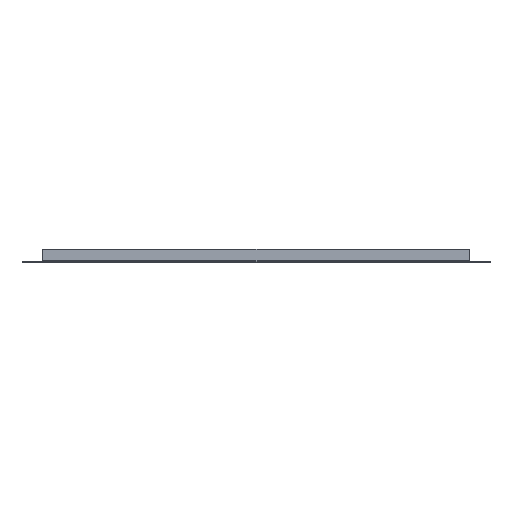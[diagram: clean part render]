
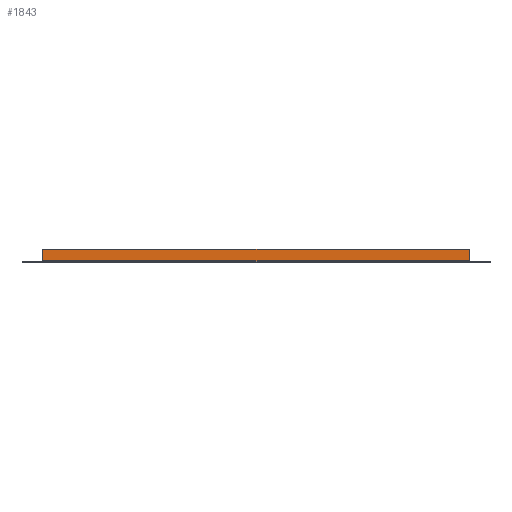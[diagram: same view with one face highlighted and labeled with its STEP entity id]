
A CAD part, left-side view. The second image highlights one B-rep face of the part: STEP entity #1843.
In plain terms, the highlighted planar face has unit normal (-1, 0, 0).
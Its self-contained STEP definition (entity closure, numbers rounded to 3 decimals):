
#1688 = VERTEX_POINT('',#1689);
#1689 = CARTESIAN_POINT('',(-925.,310.,3.1));
#1728 = VERTEX_POINT('',#1729);
#1729 = CARTESIAN_POINT('',(-925.,-310.,3.1));
#1753 = EDGE_CURVE('',#1728,#1688,#1754,.T.);
#1754 = LINE('',#1755,#1756);
#1755 = CARTESIAN_POINT('',(-925.,-310.,3.1));
#1756 = VECTOR('',#1757,1.);
#1757 = DIRECTION('',(0.,1.,0.));
#1795 = VERTEX_POINT('',#1796);
#1796 = CARTESIAN_POINT('',(-925.,-310.,20.));
#1802 = EDGE_CURVE('',#1728,#1795,#1803,.T.);
#1803 = LINE('',#1804,#1805);
#1804 = CARTESIAN_POINT('',(-925.,-310.,20.));
#1805 = VECTOR('',#1806,1.);
#1806 = DIRECTION('',(-0.,0.,1.));
#1817 = EDGE_CURVE('',#1818,#1688,#1820,.T.);
#1818 = VERTEX_POINT('',#1819);
#1819 = CARTESIAN_POINT('',(-925.,310.,20.));
#1820 = LINE('',#1821,#1822);
#1821 = CARTESIAN_POINT('',(-925.,310.,2.5));
#1822 = VECTOR('',#1823,1.);
#1823 = DIRECTION('',(-0.,-0.,-1.));
#1843 = ADVANCED_FACE('',(#1844),#1855,.F.);
#1844 = FACE_BOUND('',#1845,.T.);
#1845 = EDGE_LOOP('',(#1846,#1847,#1848,#1854));
#1846 = ORIENTED_EDGE('',*,*,#1753,.F.);
#1847 = ORIENTED_EDGE('',*,*,#1802,.T.);
#1848 = ORIENTED_EDGE('',*,*,#1849,.T.);
#1849 = EDGE_CURVE('',#1795,#1818,#1850,.T.);
#1850 = LINE('',#1851,#1852);
#1851 = CARTESIAN_POINT('',(-925.,310.,20.));
#1852 = VECTOR('',#1853,1.);
#1853 = DIRECTION('',(0.,1.,-0.));
#1854 = ORIENTED_EDGE('',*,*,#1817,.T.);
#1855 = PLANE('',#1856);
#1856 = AXIS2_PLACEMENT_3D('',#1857,#1858,#1859);
#1857 = CARTESIAN_POINT('',(-925.,-310.,2.5));
#1858 = DIRECTION('',(1.,0.,0.));
#1859 = DIRECTION('',(0.,1.,0.));
